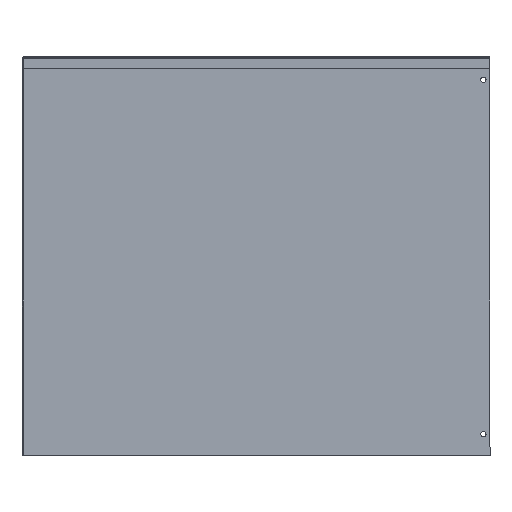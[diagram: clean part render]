
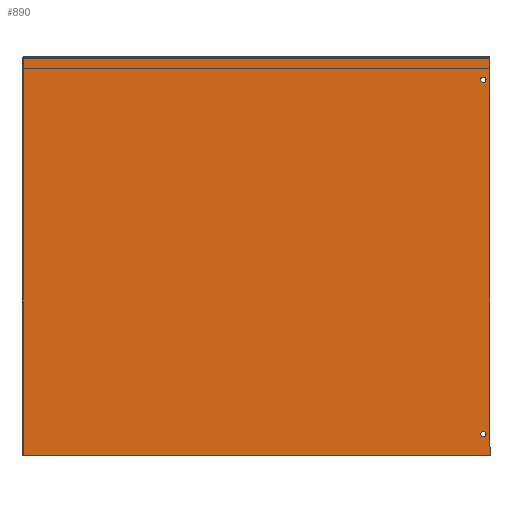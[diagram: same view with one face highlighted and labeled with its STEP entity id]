
A CAD part, left-side view. The second image highlights one B-rep face of the part: STEP entity #890.
In plain terms, the highlighted planar face has unit normal (-1, 0, 0) as drawn and (0, 0, 1) by its records, which use the part's own axes.
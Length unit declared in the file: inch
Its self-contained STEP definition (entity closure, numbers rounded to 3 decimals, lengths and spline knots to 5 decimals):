
#25 = DIRECTION ( 'NONE',  ( 0., -1., 0. ) ) ;
#101 = CARTESIAN_POINT ( 'NONE',  ( 19.49955, 3.28832, 0.038 ) ) ;
#129 = CARTESIAN_POINT ( 'NONE',  ( 41.27652, 20.94457, 0.038 ) ) ;
#162 = CIRCLE ( 'NONE', #1106, 0.125 ) ;
#183 = VERTEX_POINT ( 'NONE', #1748 ) ;
#186 = VERTEX_POINT ( 'NONE', #101 ) ;
#221 = CARTESIAN_POINT ( 'NONE',  ( 19.62455, 3.28832, 0.038 ) ) ;
#301 = EDGE_LOOP ( 'NONE', ( #1986, #1874 ) ) ;
#340 = LINE ( 'NONE', #1302, #2042 ) ;
#361 = VERTEX_POINT ( 'NONE', #1667 ) ;
#383 = DIRECTION ( 'NONE',  ( 1., 0., 0. ) ) ;
#436 = EDGE_CURVE ( 'NONE', #361, #186, #1942, .T. ) ;
#443 = ORIENTED_EDGE ( 'NONE', *, *, #1031, .F. ) ;
#453 = DIRECTION ( 'NONE',  ( 0., 0., 1. ) ) ;
#525 = VERTEX_POINT ( 'NONE', #1746 ) ;
#558 = CIRCLE ( 'NONE', #1460, 0.125 ) ;
#611 = CARTESIAN_POINT ( 'NONE',  ( 19.62455, 19.94457, 0.038 ) ) ;
#627 = DIRECTION ( 'NONE',  ( -1., 0., 0. ) ) ;
#656 = DIRECTION ( 'NONE',  ( -1., 0., 0. ) ) ;
#684 = VECTOR ( 'NONE', #1383, 39.37008 ) ;
#686 = EDGE_CURVE ( 'NONE', #186, #361, #558, .T. ) ;
#742 = FACE_OUTER_BOUND ( 'NONE', #839, .T. ) ;
#761 = ORIENTED_EDGE ( 'NONE', *, *, #1916, .T. ) ;
#775 = DIRECTION ( 'NONE',  ( 1., 0., 0. ) ) ;
#812 = LINE ( 'NONE', #1989, #2066 ) ;
#832 = EDGE_CURVE ( 'NONE', #1811, #1166, #340, .T. ) ;
#839 = EDGE_LOOP ( 'NONE', ( #443, #761, #1079, #859 ) ) ;
#851 = VERTEX_POINT ( 'NONE', #1948 ) ;
#859 = ORIENTED_EDGE ( 'NONE', *, *, #832, .T. ) ;
#880 = CARTESIAN_POINT ( 'NONE',  ( 19.31205, 2.28832, 0.038 ) ) ;
#890 = ADVANCED_FACE ( 'NONE', ( #742, #1939, #1559 ), #1638, .F. ) ;
#948 = DIRECTION ( 'NONE',  ( 0., 0., 1. ) ) ;
#1031 = EDGE_CURVE ( 'NONE', #183, #1166, #812, .T. ) ;
#1079 = ORIENTED_EDGE ( 'NONE', *, *, #1319, .T. ) ;
#1088 = CIRCLE ( 'NONE', #1435, 0.125 ) ;
#1106 = AXIS2_PLACEMENT_3D ( 'NONE', #1447, #453, #1610 ) ;
#1116 = LINE ( 'NONE', #1703, #684 ) ;
#1128 = EDGE_CURVE ( 'NONE', #1731, #851, #162, .T. ) ;
#1166 = VERTEX_POINT ( 'NONE', #1787 ) ;
#1211 = CARTESIAN_POINT ( 'NONE',  ( 19.74955, 19.94457, 0.038 ) ) ;
#1263 = AXIS2_PLACEMENT_3D ( 'NONE', #1475, #1799, #656 ) ;
#1271 = ORIENTED_EDGE ( 'NONE', *, *, #1128, .F. ) ;
#1302 = CARTESIAN_POINT ( 'NONE',  ( 41.27652, 2.28832, 0.038 ) ) ;
#1319 = EDGE_CURVE ( 'NONE', #525, #1811, #1116, .T. ) ;
#1355 = VECTOR ( 'NONE', #627, 39.37008 ) ;
#1383 = DIRECTION ( 'NONE',  ( 0., -1., 0. ) ) ;
#1386 = DIRECTION ( 'NONE',  ( 0., 0., 1. ) ) ;
#1435 = AXIS2_PLACEMENT_3D ( 'NONE', #611, #1758, #775 ) ;
#1447 = CARTESIAN_POINT ( 'NONE',  ( 19.62455, 19.94457, 0.038 ) ) ;
#1453 = LINE ( 'NONE', #129, #1355 ) ;
#1460 = AXIS2_PLACEMENT_3D ( 'NONE', #1926, #948, #2088 ) ;
#1475 = CARTESIAN_POINT ( 'NONE',  ( 50.60465, 11.61644, 0.038 ) ) ;
#1494 = AXIS2_PLACEMENT_3D ( 'NONE', #221, #1386, #383 ) ;
#1559 = FACE_BOUND ( 'NONE', #1606, .T. ) ;
#1606 = EDGE_LOOP ( 'NONE', ( #1858, #1271 ) ) ;
#1610 = DIRECTION ( 'NONE',  ( 1., 0., 0. ) ) ;
#1638 = PLANE ( 'NONE',  #1263 ) ;
#1667 = CARTESIAN_POINT ( 'NONE',  ( 19.74955, 3.28832, 0.038 ) ) ;
#1703 = CARTESIAN_POINT ( 'NONE',  ( 19.31205, 2.28832, 0.038 ) ) ;
#1731 = VERTEX_POINT ( 'NONE', #1211 ) ;
#1746 = CARTESIAN_POINT ( 'NONE',  ( 19.31205, 20.94457, 0.038 ) ) ;
#1748 = CARTESIAN_POINT ( 'NONE',  ( 41.22707, 20.94457, 0.038 ) ) ;
#1758 = DIRECTION ( 'NONE',  ( 0., 0., 1. ) ) ;
#1787 = CARTESIAN_POINT ( 'NONE',  ( 41.22707, 2.28832, 0.038 ) ) ;
#1799 = DIRECTION ( 'NONE',  ( 0., 0., -1. ) ) ;
#1811 = VERTEX_POINT ( 'NONE', #880 ) ;
#1858 = ORIENTED_EDGE ( 'NONE', *, *, #2107, .F. ) ;
#1874 = ORIENTED_EDGE ( 'NONE', *, *, #436, .F. ) ;
#1916 = EDGE_CURVE ( 'NONE', #183, #525, #1453, .T. ) ;
#1926 = CARTESIAN_POINT ( 'NONE',  ( 19.62455, 3.28832, 0.038 ) ) ;
#1939 = FACE_BOUND ( 'NONE', #301, .T. ) ;
#1942 = CIRCLE ( 'NONE', #1494, 0.125 ) ;
#1948 = CARTESIAN_POINT ( 'NONE',  ( 19.49955, 19.94457, 0.038 ) ) ;
#1951 = DIRECTION ( 'NONE',  ( 1., 0., 0. ) ) ;
#1986 = ORIENTED_EDGE ( 'NONE', *, *, #686, .F. ) ;
#1989 = CARTESIAN_POINT ( 'NONE',  ( 41.22707, 11.61644, 0.038 ) ) ;
#2042 = VECTOR ( 'NONE', #1951, 39.37008 ) ;
#2066 = VECTOR ( 'NONE', #25, 39.37008 ) ;
#2088 = DIRECTION ( 'NONE',  ( 1., 0., 0. ) ) ;
#2107 = EDGE_CURVE ( 'NONE', #851, #1731, #1088, .T. ) ;
